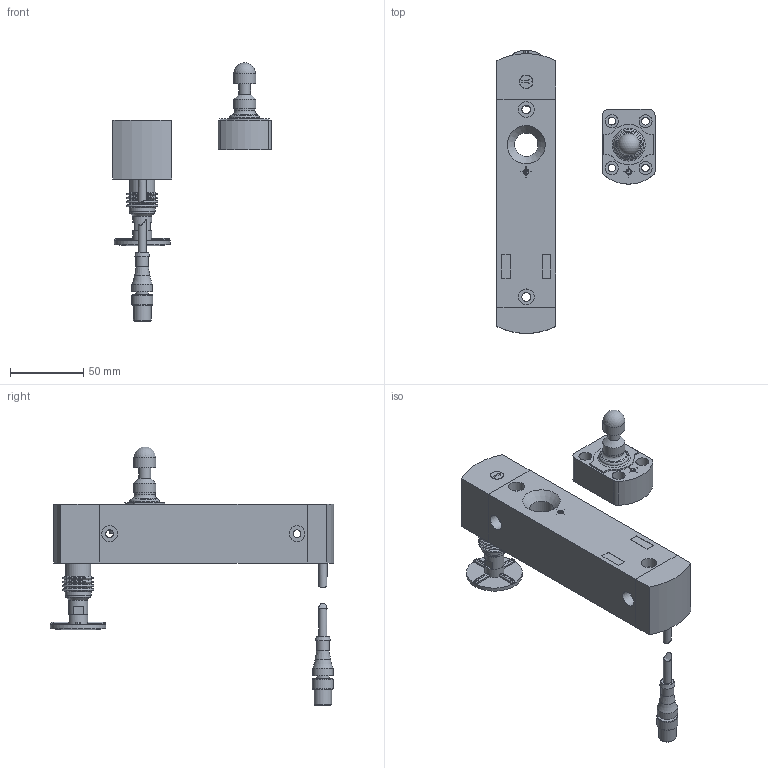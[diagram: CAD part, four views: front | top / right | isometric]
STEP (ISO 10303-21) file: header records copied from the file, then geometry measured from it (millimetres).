
FILE_DESCRIPTION(/* description */ (''),/* implementation_level */ '2;1');
FILE_NAME(/* name */ '3DCAD_L250_P31SL_CB02M12S8_PB_SCA.stp',/* time_stamp */ '2025-09-15T10:37:19+02:00',/* author */ ('CC2'),/* organization */ ('Leuze electronic'),/* preprocessor_version */ 'ST-DEVELOPER v19.4',/* originating_system */ 'SIEMENS PLM Software NX2306.9180',/* authorisation */ '');
FILE_SCHEMA (('AUTOMOTIVE_DESIGN { 1 0 10303 214 3 1 1 1 }'));
Length unit declared in the file: millimetre
Products named in the file (1): 19-103948_00_1-3DCAD_L250_P31SL_CB02M12S8_PB_SCA
Bounding box: 108 x 193.5 x 176.45 mm (x, y, z)
Volume: 339653.7 mm3; surface area: 63694.8 mm2
Topology: 6 solids, 6 shells, 285 faces, 655 edges, 425 vertices
Faces by surface type: plane 154, cylinder 88, torus 17, cone 14, bspline 9, extrusion 2, sphere 1
Full cylindrical faces by diameter (mm): 5.2 x4, 5.3 x4, 5.7 x2, 6 x2, 8 x1, 8.5 x2, 8.7 x1, 8.9 x4, 9 x1, 9.2 x1, 10 x2, 10.7 x1, 10.8 x8, 12 x1, 13 x2, 13.5 x2, 14 x2, 14.5 x1, 15 x2, 16 x1, 16.793 x1, 17 x1, 17.793 x1, 20.425 x1, 38 x1
Entity records: 8267 total; most frequent: CARTESIAN_POINT 2073, DIRECTION 1289, ORIENTED_EDGE 1102, EDGE_CURVE 551, AXIS2_PLACEMENT_3D 491, EDGE_LOOP 431, VERTEX_POINT 403, VECTOR 307
